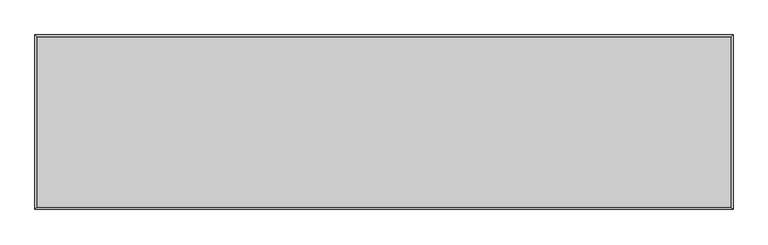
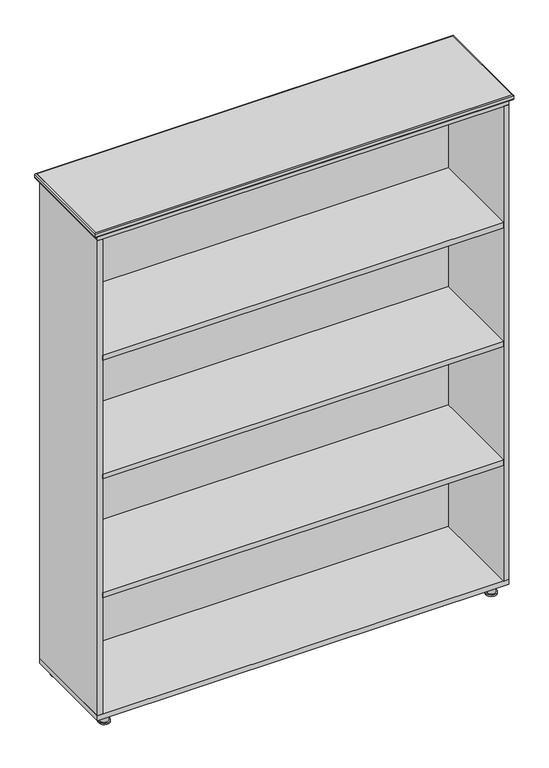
"""IFC4 building model written with IfcOpenShell, lengths in millimetres: furniture geometry, 书柜7 : W800*D419*H1515mm 2."""

from ifc_helpers import new_model, si_unit, point, frame, frame_2d, origin, origin_with_axes, place, context, project, spatial, polyline, circle_curve, ellipse_curve, trimmed, segment, composite_curve, outline, extrude, source, transform, mapped, element, save
from ifc_brep_helpers import plane_surface, cylinder_surface, advanced_brep


def furniture_9b6547bb(model_context):
    return source(origin(), model_context, "Body", "SolidModel", [
        extrude(outline(polyline([(575.0, 159.2785466), (575.0, -115.0), (-575.0, -115.0), (-575.0, 159.2785466), (575.0, 159.2785466)])), frame((0.0, 0.0, 397.0), z_axis=(0.0, 0.0, 1.0), x_axis=(1.0, 0.0, 0.0)), (0.0, 0.0, 1.0), 16.0),
        extrude(outline(polyline([(575.0, 159.2785466), (575.0, -115.0), (-575.0, -115.0), (-575.0, 159.2785466), (575.0, 159.2785466)])), frame((0.0, 0.0, 1117.0), z_axis=(0.0, 0.0, 1.0), x_axis=(1.0, 0.0, 0.0)), (0.0, 0.0, 1.0), 16.0),
        extrude(outline(polyline([(575.0, 165.0), (575.0, 159.2785466), (-575.0, 159.2785466), (-575.0, 165.0), (575.0, 165.0)])), frame((0.0, 0.0, 45.0), z_axis=(0.0, 0.0, 1.0), x_axis=(1.0, 0.0, 0.0)), (0.0, 0.0, 1.0), 1440.0),
        extrude(outline(composite_curve([segment(trimmed(circle_curve(frame_2d((555.0, 149.3474913)), 11.561262), [point((566.561262, 149.3474913))], [point((543.438738, 149.3474913))], False, "CARTESIAN"), True, "CONTINUOUS"), segment(trimmed(circle_curve(frame_2d((555.0, 149.3474913)), 11.561262), [point((543.438738, 149.3474913))], [point((566.561262, 149.3474913))], False, "CARTESIAN"), True, "CONTINUOUS")], self_intersect=False)), frame((0.0, 0.0, 4.4532093), z_axis=(0.0, 0.0, 1.0), x_axis=(1.0, 0.0, 0.0)), (0.0, 0.0, 1.0), 25.5467907),
        extrude(outline(composite_curve([segment(trimmed(circle_curve(frame_2d((555.0, 149.3474913)), 15.4868656), [point((570.4868656, 149.3474913))], [point((539.5131344, 149.3474913))], False, "CARTESIAN"), True, "CONTINUOUS"), segment(trimmed(circle_curve(frame_2d((555.0, 149.3474913)), 15.4868656), [point((539.5131344, 149.3474913))], [point((570.4868656, 149.3474913))], False, "CARTESIAN"), True, "CONTINUOUS")], self_intersect=False)), origin_with_axes(), (0.0, 0.0, 1.0), 4.4532093),
        extrude(outline(composite_curve([segment(trimmed(circle_curve(frame_2d((-555.0, 149.3474913)), 11.561262), [point((-566.561262, 149.3474913))], [point((-543.438738, 149.3474913))], False, "CARTESIAN"), True, "CONTINUOUS"), segment(trimmed(circle_curve(frame_2d((-555.0, 149.3474913)), 11.561262), [point((-543.438738, 149.3474913))], [point((-566.561262, 149.3474913))], False, "CARTESIAN"), True, "CONTINUOUS")], self_intersect=False)), frame((0.0, 0.0, 4.4532093), z_axis=(0.0, 0.0, 1.0), x_axis=(1.0, 0.0, 0.0)), (0.0, 0.0, 1.0), 25.5467907),
        extrude(outline(composite_curve([segment(trimmed(circle_curve(frame_2d((-555.0, 149.3474913)), 15.4868656), [point((-570.4868656, 149.3474913))], [point((-539.5131344, 149.3474913))], False, "CARTESIAN"), True, "CONTINUOUS"), segment(trimmed(circle_curve(frame_2d((-555.0, 149.3474913)), 15.4868656), [point((-539.5131344, 149.3474913))], [point((-570.4868656, 149.3474913))], False, "CARTESIAN"), True, "CONTINUOUS")], self_intersect=False)), origin_with_axes(), (0.0, 0.0, 1.0), 4.4532093),
        extrude(outline(composite_curve([segment(trimmed(circle_curve(frame_2d((555.0, -88.0)), 11.561262), [point((566.561262, -88.0))], [point((543.438738, -88.0))], False, "CARTESIAN"), True, "CONTINUOUS"), segment(trimmed(circle_curve(frame_2d((555.0, -88.0)), 11.561262), [point((543.438738, -88.0))], [point((566.561262, -88.0))], False, "CARTESIAN"), True, "CONTINUOUS")], self_intersect=False)), frame((0.0, 0.0, 4.4532093), z_axis=(0.0, 0.0, 1.0), x_axis=(1.0, 0.0, 0.0)), (0.0, 0.0, 1.0), 25.5467907),
        extrude(outline(composite_curve([segment(trimmed(circle_curve(frame_2d((555.0, -88.0)), 15.4868656), [point((570.4868656, -88.0))], [point((539.5131344, -88.0))], False, "CARTESIAN"), True, "CONTINUOUS"), segment(trimmed(circle_curve(frame_2d((555.0, -88.0)), 15.4868656), [point((539.5131344, -88.0))], [point((570.4868656, -88.0))], False, "CARTESIAN"), True, "CONTINUOUS")], self_intersect=False)), origin_with_axes(), (0.0, 0.0, 1.0), 4.4532093),
        extrude(outline(composite_curve([segment(trimmed(circle_curve(frame_2d((-555.0, -88.0)), 11.561262), [point((-566.561262, -88.0))], [point((-543.438738, -88.0))], False, "CARTESIAN"), True, "CONTINUOUS"), segment(trimmed(circle_curve(frame_2d((-555.0, -88.0)), 11.561262), [point((-543.438738, -88.0))], [point((-566.561262, -88.0))], False, "CARTESIAN"), True, "CONTINUOUS")], self_intersect=False)), frame((0.0, 0.0, 4.4532093), z_axis=(0.0, 0.0, 1.0), x_axis=(1.0, 0.0, 0.0)), (0.0, 0.0, 1.0), 25.5467907),
        extrude(outline(composite_curve([segment(trimmed(circle_curve(frame_2d((-555.0, -88.0)), 15.4868656), [point((-570.4868656, -88.0))], [point((-539.5131344, -88.0))], False, "CARTESIAN"), True, "CONTINUOUS"), segment(trimmed(circle_curve(frame_2d((-555.0, -88.0)), 15.4868656), [point((-539.5131344, -88.0))], [point((-570.4868656, -88.0))], False, "CARTESIAN"), True, "CONTINUOUS")], self_intersect=False)), origin_with_axes(), (0.0, 0.0, 1.0), 4.4532093),
        advanced_brep(
        [(600.0, 178.0, 1512.0), (597.0, 175.0, 1515.0), (597.0, -119.0, 1515.0), (600.0, -122.0, 1512.0), (600.0, 178.0, 1503.0), (600.0, -122.0, 1503.0), (597.0, 175.0, 1500.0), (597.0, -119.0, 1500.0), (-597.0, -119.0, 1515.0), (-600.0, -122.0, 1512.0), (-600.0, -122.0, 1503.0), (-597.0, -119.0, 1500.0), (-597.0, 175.0, 1515.0), (-600.0, 178.0, 1512.0), (-600.0, 178.0, 1503.0), (-597.0, 175.0, 1500.0)],
        [
            (0, 1, ellipse_curve(frame((597.0, 175.0, 1512.0), z_axis=(0.7071067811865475, -0.7071067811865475, 0.0), x_axis=(0.7071067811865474, 0.7071067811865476, 0.0)), 4.2426407, 3.0)),
            (1, 2),
            (2, 3, ellipse_curve(frame((597.0, -119.0, 1512.0), z_axis=(0.7071067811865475, 0.7071067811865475, 0.0), x_axis=(-0.7071067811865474, 0.7071067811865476, 0.0)), 4.2426407, 3.0)),
            (3, 0),
            (4, 0),
            (3, 5),
            (5, 4),
            (6, 4, ellipse_curve(frame((597.0, 175.0, 1503.0), z_axis=(0.7071067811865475, -0.7071067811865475, 0.0), x_axis=(0.7071067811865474, 0.7071067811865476, 0.0)), 4.2426407, 3.0)),
            (5, 7, ellipse_curve(frame((597.0, -119.0, 1503.0), z_axis=(0.7071067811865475, 0.7071067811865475, 0.0), x_axis=(-0.7071067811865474, 0.7071067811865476, 0.0)), 4.2426407, 3.0)),
            (7, 6),
            (1, 6),
            (7, 2),
            (2, 8),
            (8, 9, ellipse_curve(frame((-597.0, -119.0, 1512.0), z_axis=(0.7071067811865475, -0.7071067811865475, 0.0), x_axis=(0.7071067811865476, 0.7071067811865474, 0.0)), 4.2426407, 3.0)),
            (9, 3),
            (9, 10),
            (10, 5),
            (10, 11, ellipse_curve(frame((-597.0, -119.0, 1503.0), z_axis=(0.7071067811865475, -0.7071067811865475, 0.0), x_axis=(0.7071067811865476, 0.7071067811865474, 0.0)), 4.2426407, 3.0)),
            (11, 7),
            (11, 8),
            (8, 12),
            (12, 13, ellipse_curve(frame((-597.0, 175.0, 1512.0), z_axis=(-0.7071067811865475, -0.7071067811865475, 0.0), x_axis=(0.7071067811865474, -0.7071067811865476, 0.0)), 4.2426407, 3.0)),
            (13, 9),
            (13, 14),
            (14, 10),
            (14, 15, ellipse_curve(frame((-597.0, 175.0, 1503.0), z_axis=(-0.7071067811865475, -0.7071067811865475, 0.0), x_axis=(0.7071067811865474, -0.7071067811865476, 0.0)), 4.2426407, 3.0)),
            (15, 11),
            (15, 12),
            (12, 1),
            (0, 13),
            (4, 14),
            (6, 15),
        ],
        [
            cylinder_surface(frame((597.0, 178.0, 1512.0), z_axis=(0.0, 1.0, 0.0), x_axis=(1.0, 0.0, 0.0)), 3.0),
            plane_surface(frame((600.0, 178.0, 1512.0), z_axis=(1.0, 0.0, 0.0), x_axis=(0.0, -1.0, 0.0))),
            cylinder_surface(frame((597.0, 178.0, 1503.0), z_axis=(0.0, 1.0, 0.0), x_axis=(1.0, 0.0, 0.0)), 3.0),
            plane_surface(frame((597.0, 175.0, 1500.0), z_axis=(-1.0, 0.0, 0.0), x_axis=(0.0, -1.0, 0.0))),
            cylinder_surface(frame((600.0, -119.0, 1512.0), z_axis=(1.0, 0.0, 0.0), x_axis=(0.0, -1.0, 0.0)), 3.0),
            plane_surface(frame((600.0, -122.0, 1512.0), z_axis=(0.0, -1.0, 0.0), x_axis=(-1.0, 0.0, 0.0))),
            cylinder_surface(frame((600.0, -119.0, 1503.0), z_axis=(1.0, 0.0, 0.0), x_axis=(0.0, -1.0, 0.0)), 3.0),
            plane_surface(frame((597.0, -119.0, 1500.0), z_axis=(0.0, 1.0, 0.0), x_axis=(-1.0, 0.0, 0.0))),
            cylinder_surface(frame((-597.0, -122.0, 1512.0), z_axis=(0.0, -1.0, 0.0), x_axis=(-1.0, 0.0, 0.0)), 3.0),
            plane_surface(frame((-600.0, -122.0, 1512.0), z_axis=(-1.0, 0.0, 0.0), x_axis=(0.0, 1.0, 0.0))),
            cylinder_surface(frame((-597.0, -122.0, 1503.0), z_axis=(0.0, -1.0, 0.0), x_axis=(-1.0, 0.0, 0.0)), 3.0),
            plane_surface(frame((-597.0, -119.0, 1500.0), z_axis=(1.0, 0.0, 0.0), x_axis=(0.0, 1.0, 0.0))),
            cylinder_surface(frame((-600.0, 175.0, 1512.0), z_axis=(-1.0, 0.0, 0.0), x_axis=(0.0, 1.0, 0.0)), 3.0),
            plane_surface(frame((-600.0, 178.0, 1512.0), z_axis=(0.0, 1.0, 0.0), x_axis=(1.0, 0.0, 0.0))),
            cylinder_surface(frame((-600.0, 175.0, 1503.0), z_axis=(-1.0, 0.0, 0.0), x_axis=(0.0, 1.0, 0.0)), 3.0),
            plane_surface(frame((-597.0, 175.0, 1500.0), z_axis=(0.0, -1.0, 0.0), x_axis=(1.0, 0.0, 0.0))),
        ],
        [
            (0, [[1, 2, 3, 4]]),
            (1, [[5, -4, 6, 7]]),
            (2, [[8, -7, 9, 10]]),
            (3, [[11, -10, 12, -2]]),
            (4, [[-3, 13, 14, 15]]),
            (5, [[-6, -15, 16, 17]]),
            (6, [[-9, -17, 18, 19]]),
            (7, [[-12, -19, 20, -13]]),
            (8, [[-14, 21, 22, 23]]),
            (9, [[-16, -23, 24, 25]]),
            (10, [[-18, -25, 26, 27]]),
            (11, [[-20, -27, 28, -21]]),
            (12, [[-22, 29, -1, 30]]),
            (13, [[-24, -30, -5, 31]]),
            (14, [[-26, -31, -8, 32]]),
            (15, [[-28, -32, -11, -29]]),
        ],
    ),
        extrude(outline(polyline([(597.0, 175.0), (597.0, -119.0), (-597.0, -119.0), (-597.0, 175.0), (597.0, 175.0)])), frame((0.0, 0.0, 1500.0), z_axis=(0.0, 0.0, 1.0), x_axis=(1.0, 0.0, 0.0)), (0.0, 0.0, 1.0), 15.0),
        extrude(outline(polyline([(575.0, -115.0), (575.0, 172.0), (590.0, 172.0), (590.0, -115.0), (575.0, -115.0)])), frame((0.0, 0.0, 45.0), z_axis=(0.0, 0.0, 1.0), x_axis=(1.0, 0.0, 0.0)), (0.0, 0.0, 1.0), 1440.0),
        extrude(outline(polyline([(-575.0, 172.0), (-575.0, -115.0), (-590.0, -115.0), (-590.0, 172.0), (-575.0, 172.0)])), frame((0.0, 0.0, 45.0), z_axis=(0.0, 0.0, 1.0), x_axis=(1.0, 0.0, 0.0)), (0.0, 0.0, 1.0), 1440.0),
        extrude(outline(polyline([(575.0, 159.2785466), (575.0, -115.0), (-575.0, -115.0), (-575.0, 159.2785466), (575.0, 159.2785466)])), frame((0.0, 0.0, 757.5), z_axis=(0.0, 0.0, 1.0), x_axis=(1.0, 0.0, 0.0)), (0.0, 0.0, 1.0), 15.0),
        extrude(outline(polyline([(590.0, -115.0), (-590.0, -115.0), (-590.0, 172.0), (590.0, 172.0), (590.0, -115.0)])), frame((0.0, 0.0, 1485.0), z_axis=(0.0, 0.0, 1.0), x_axis=(1.0, 0.0, 0.0)), (0.0, 0.0, 1.0), 15.0),
        extrude(outline(polyline([(590.0, -115.0), (-590.0, -115.0), (-590.0, 172.0), (590.0, 172.0), (590.0, -115.0)])), frame((0.0, 0.0, 30.0), z_axis=(0.0, 0.0, 1.0), x_axis=(1.0, 0.0, 0.0)), (0.0, 0.0, 1.0), 15.0),
    ])


if __name__ == "__main__":
    model = new_model("IFC4")
    model_context = context("Model", 3, world=origin())
    ifc_project = project(units=[si_unit("LENGTHUNIT", "METRE", prefix="MILLI")], contexts=[model_context])
    site = spatial("IfcSite", under=ifc_project)
    building = spatial("IfcBuilding", under=site)
    placement = place(None, origin())
    furniture_shape = furniture_9b6547bb(model_context)
    element("IfcFurniture", 1, ObjectType="书柜7 : W800*D419*H1515mm 2", at=placement, inside=building, context=model_context, shape_type="MappedRepresentation", body=[
        mapped(furniture_shape, transform((0.0, 0.0, 0.0), x_axis=(1.0, 0.0, 0.0), y_axis=(0.0, 1.0, 0.0), z_axis=(0.0, 0.0, 1.0))),
    ])
    save(model, "model.ifc")
